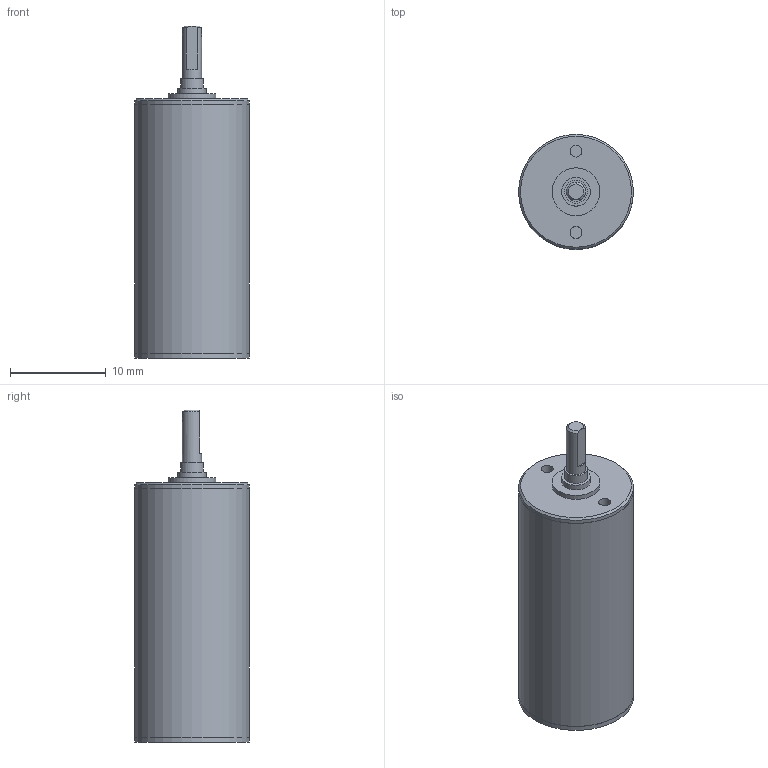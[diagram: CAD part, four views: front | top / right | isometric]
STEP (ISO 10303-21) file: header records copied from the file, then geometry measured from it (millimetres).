
FILE_DESCRIPTION(/* description */ (''),/* implementation_level */ '2;1');
FILE_NAME(/* name */ '12-5_9.stp',/* time_stamp */ '2016-08-24T11:36:24+02:00',/* author */ ('DR. FRITZ FAULHABER GmbH & Co. KG'),/* organization */ ('DR. FRITZ FAULHABER GmbH & Co. KG'),/* preprocessor_version */ 'ST-DEVELOPER v16',/* originating_system */ 'SIEMENS PLM Software NX 10.0',/* authorisation */ '');
FILE_SCHEMA (('AUTOMOTIVE_DESIGN { 1 0 10303 214 3 1 1 1 }'));
Length unit declared in the file: millimetre
Products named in the file (1): H00000608_A
Bounding box: 12 x 12 x 34.7 mm (x, y, z)
Volume: 3021.4 mm3; surface area: 1385.9 mm2
Topology: 1 solids, 1 shells, 35 faces, 58 edges, 38 vertices
Faces by surface type: plane 17, cylinder 15, cone 3
Full cylindrical faces by diameter (mm): 1.25 x2, 2 x1, 2.4 x1, 2.48 x1, 2.6 x1, 3 x1, 5 x2, 6 x1, 11.99 x2, 12 x3
Entity records: 749 total; most frequent: DIRECTION 141, CARTESIAN_POINT 121, ORIENTED_EDGE 76, AXIS2_PLACEMENT_3D 69, EDGE_LOOP 65, FACE_BOUND 58, EDGE_CURVE 38, ADVANCED_FACE 35
